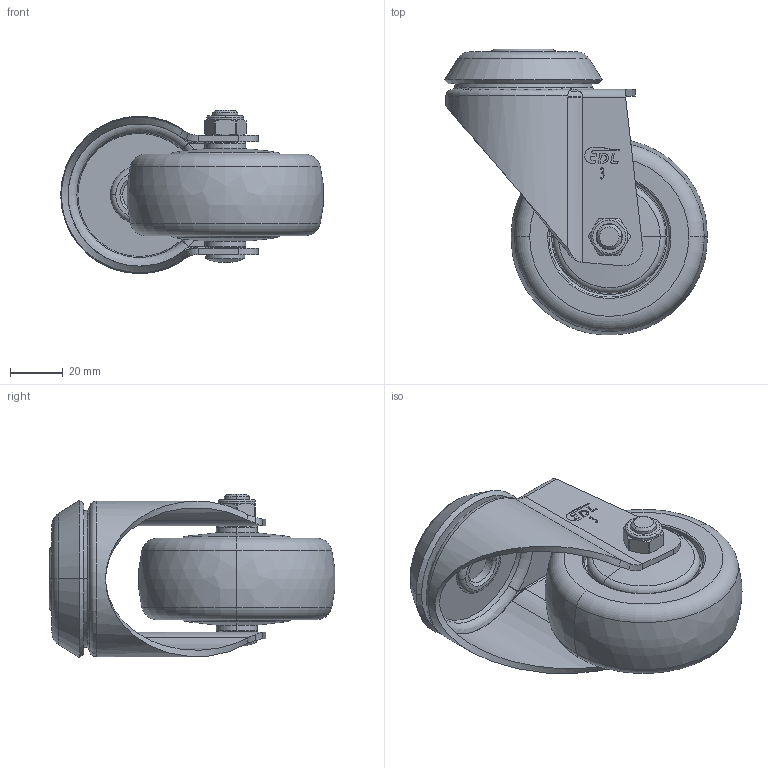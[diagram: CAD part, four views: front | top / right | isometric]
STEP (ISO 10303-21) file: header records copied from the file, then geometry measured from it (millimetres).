
FILE_DESCRIPTION((''),'2;1');
FILE_NAME('57273-573-77_ASM','2021-01-05T',('lenovo'),(''),'PRO/ENGINEER BY PARAMETRIC TECHNOLOGY CORPORATION, 2010280','PRO/ENGINEER BY PARAMETRIC TECHNOLOGY CORPORATION, 2010280','');
FILE_SCHEMA(('CONFIG_CONTROL_DESIGN'));
Length unit declared in the file: millimetre
Products named in the file (7): 5710-058; 5723-311; 5720-211; 573-77; 5710-020; 5710-031; 57273-573-77_ASM
Assembly tree (6 placements, depth 2):
  57273-573-77_ASM
    5710-058
    5723-311
    5720-211
    573-77
    5710-020
    5710-031
Bounding box: 100.05 x 108.85 x 62.25 mm (x, y, z)
Volume: 187547.8 mm3; surface area: 51472.4 mm2
Topology: 6 solids, 6 shells, 302 faces, 736 edges, 457 vertices
Faces by surface type: plane 133, cylinder 57, torus 38, bspline 36, cone 32, sphere 6
Entity records: 10303 total; most frequent: CARTESIAN_POINT 3154, ORIENTED_EDGE 1468, DIRECTION 1456, EDGE_CURVE 734, AXIS2_PLACEMENT_3D 534, VERTEX_POINT 457, VECTOR 388, LINE 388
